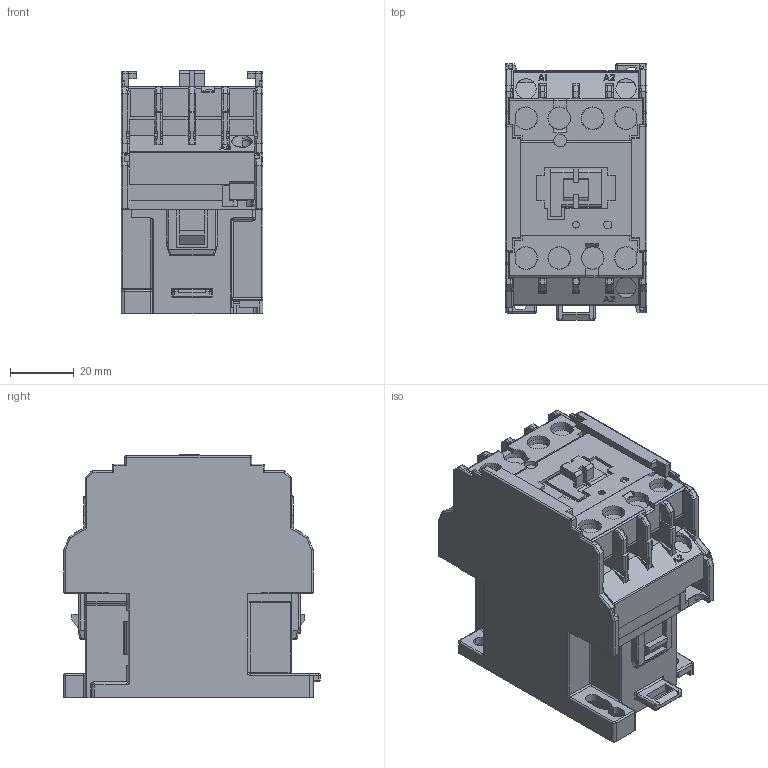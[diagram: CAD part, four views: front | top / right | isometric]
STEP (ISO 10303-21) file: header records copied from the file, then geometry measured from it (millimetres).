
FILE_DESCRIPTION (( 'STEP AP214' ), '1' );
FILE_NAME ('RSC12-301_-310.STEP', '2024-04-15T09:06:45', ( '' ), ( '' ), 'SwSTEP 2.0', 'SolidWorks 2022', '' );
FILE_SCHEMA (( 'AUTOMOTIVE_DESIGN' ));
Length unit declared in the file: millimetre
Products named in the file (1): RSC12-301_-310
Bounding box: 44.7 x 80.75 x 76.55 mm (x, y, z)
Volume: 191151.6 mm3; surface area: 36268.7 mm2
Topology: 1 solids, 4 shells, 1490 faces, 4134 edges, 2617 vertices
Faces by surface type: plane 1024, cylinder 380, sphere 30, bspline 19, cone 19, torus 18
Entity records: 51937 total; most frequent: CARTESIAN_POINT 12393, ORIENTED_EDGE 8200, DIRECTION 7225, EDGE_CURVE 4100, LINE 3283, VECTOR 3283, VERTEX_POINT 2617, AXIS2_PLACEMENT_3D 1971
